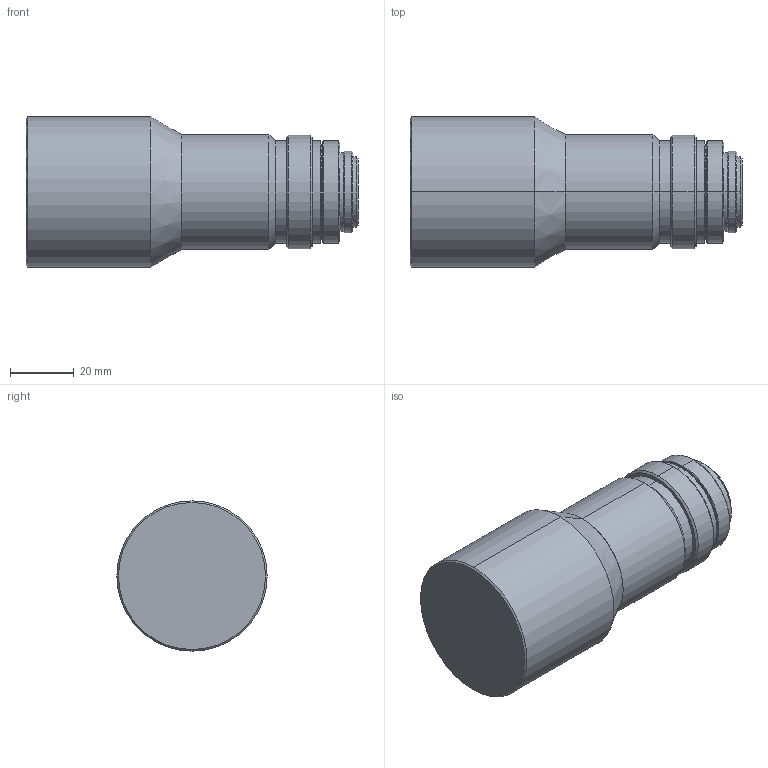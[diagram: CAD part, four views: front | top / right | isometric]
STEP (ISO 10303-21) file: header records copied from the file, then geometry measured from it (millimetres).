
FILE_DESCRIPTION (( 'STEP AP203' ), '1' );
FILE_NAME ('VS-TCM025-150_S.STEP', '2018-11-22T05:06:52', ( '' ), ( '' ), 'SwSTEP 2.0', 'SolidWorks 2018', '' );
FILE_SCHEMA (( 'CONFIG_CONTROL_DESIGN' ));
Length unit declared in the file: millimetre
Products named in the file (1): VS-TCM025-150_S
Bounding box: 103.85 x 47 x 47 mm (x, y, z)
Volume: 130605.4 mm3; surface area: 16115.8 mm2
Topology: 1 solids, 1 shells, 55 faces, 108 edges, 62 vertices
Faces by surface type: cone 28, cylinder 18, plane 9
Entity records: 1481 total; most frequent: DIRECTION 282, CARTESIAN_POINT 226, ORIENTED_EDGE 216, AXIS2_PLACEMENT_3D 118, EDGE_CURVE 108, VERTEX_POINT 62, CIRCLE 62, EDGE_LOOP 62
